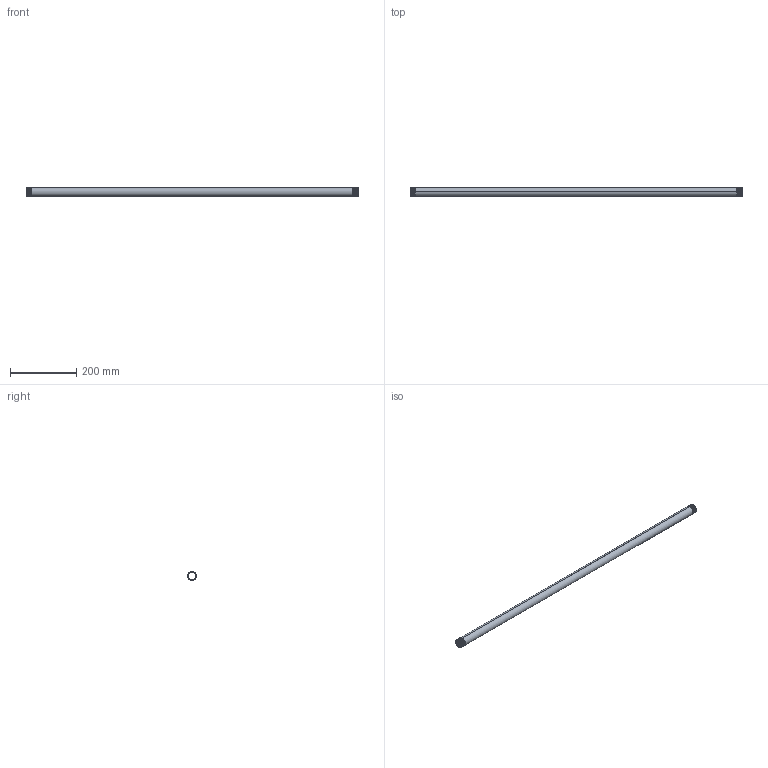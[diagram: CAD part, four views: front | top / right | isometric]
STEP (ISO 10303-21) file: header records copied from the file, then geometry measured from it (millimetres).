
FILE_DESCRIPTION (( 'STEP AP203' ), '1' );
FILE_NAME ('3D_R210_3-4x1000_17191620.STEP', '2024-08-16T14:51:14', ( '' ), ( '' ), 'SwSTEP 2.0', 'SolidWorks 2024', '' );
FILE_SCHEMA (( 'CONFIG_CONTROL_DESIGN' ));
Length unit declared in the file: millimetre
Products named in the file (1): 3D_R210_3-4x1000_17191620
Bounding box: 1000 x 26.88 x 26.9 mm (x, y, z)
Volume: 155846.7 mm3; surface area: 157933.2 mm2
Topology: 1 solids, 1 shells, 80 faces, 226 edges, 148 vertices
Faces by surface type: cone 66, bspline 6, cylinder 4, plane 4
Entity records: 13361 total; most frequent: CARTESIAN_POINT 11499, ORIENTED_EDGE 452, DIRECTION 254, EDGE_CURVE 226, VERTEX_POINT 148, B_SPLINE_CURVE_WITH_KNOTS 128, AXIS2_PLACEMENT_3D 89, EDGE_LOOP 82
